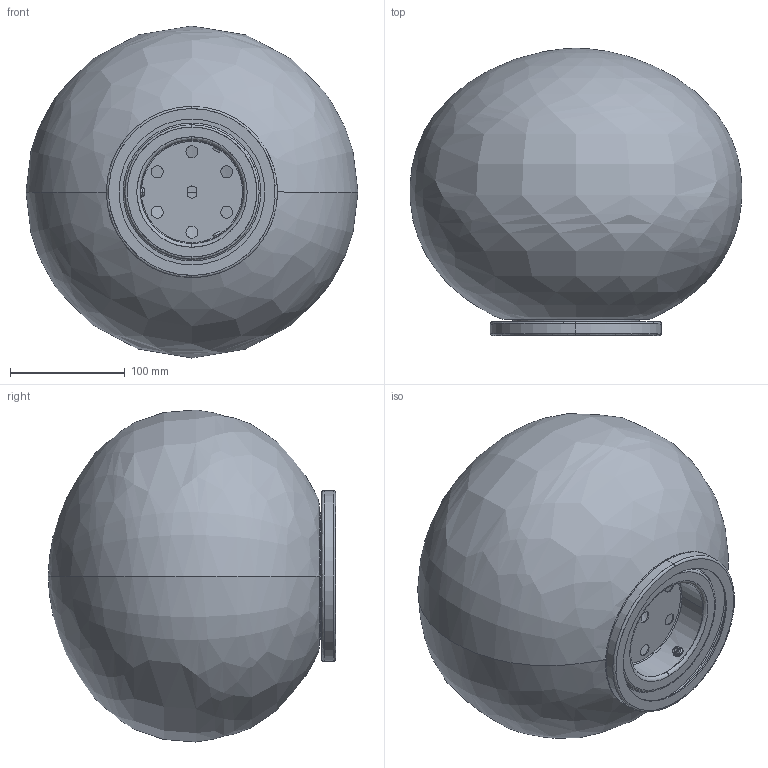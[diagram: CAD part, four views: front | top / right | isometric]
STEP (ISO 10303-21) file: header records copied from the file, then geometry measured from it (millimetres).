
FILE_DESCRIPTION (( 'STEP AP203' ), '1' );
FILE_NAME ('SPHERA_T3-29_STEP.STEP', '2016-01-22T14:02:12', ( 'admin' ), ( '' ), 'SwSTEP 2.0', 'SolidWorks 2015', '' );
FILE_SCHEMA (( 'CONFIG_CONTROL_DESIGN' ));
Length unit declared in the file: millimetre
Products named in the file (2): SPHERA_T3-29_STEP
Bounding box: 288.92 x 250 x 289 mm (x, y, z)
Volume: 930787 mm3; surface area: 519651.5 mm2
Topology: 2 solids, 2 shells, 133 faces, 310 edges, 189 vertices
Faces by surface type: bspline 62, cylinder 52, plane 19
Entity records: 11642 total; most frequent: CARTESIAN_POINT 8875, ORIENTED_EDGE 612, DIRECTION 455, EDGE_CURVE 306, AXIS2_PLACEMENT_3D 202, VERTEX_POINT 189, EDGE_LOOP 167, ADVANCED_FACE 133
